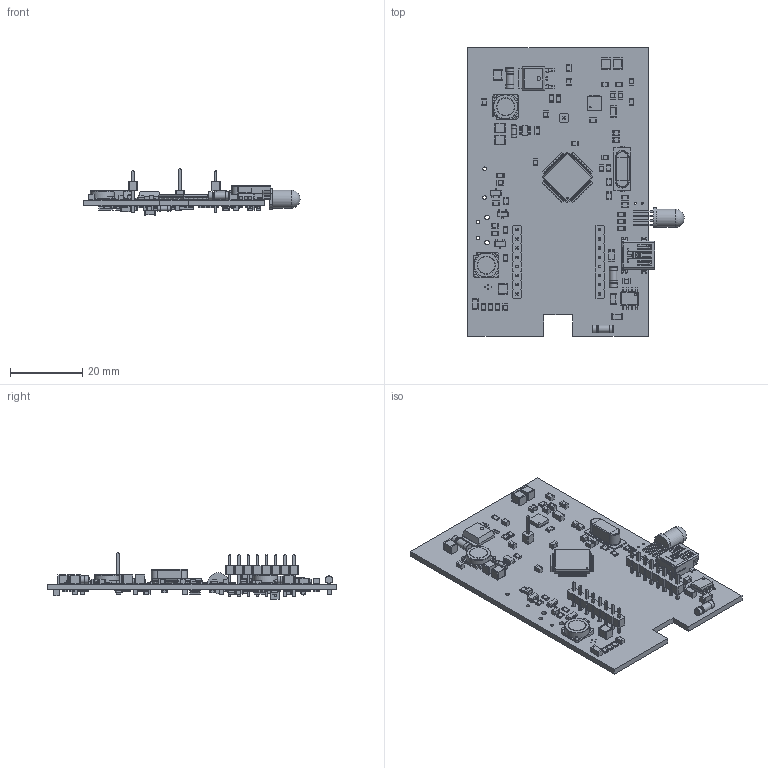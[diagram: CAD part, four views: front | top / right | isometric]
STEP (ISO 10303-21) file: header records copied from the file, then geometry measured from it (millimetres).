
FILE_DESCRIPTION(('KiCad electronic assembly'),'2;1');
FILE_NAME('TinXsat.step','2020-12-25T22:34:20',('An Author'),( 'A Company'),'Open CASCADE STEP processor 6.9', 'KiCad to STEP converter','Unknown');
FILE_SCHEMA(('AUTOMOTIVE_DESIGN { 1 0 10303 214 1 1 1 1 }'));
Length unit declared in the file: millimetre
Products named in the file (48): Open CASCADE STEP translator 6.9 1; R_0805_2012Metric; SOLID; PinHeader_1x08_P2.54mm_Vertical; LED_D5.0mm-4_RGB; C_0805_2012Metric; SOT-23; C_1210_3225Metric; USB_Mini-B_Lumberg_2486_01_Horizontal; C_1206_3216Metric; SOT-23-8; Crystal_SMD_HC49-SD; SOIC-8-1EP_3.9x4.9mm_P1.27mm_EP2.35x2.35mm; L_0805_2012Metric; LQFP-64_10x10mm_P0.5mm; QFN-24-1EP_4x4mm_P0.5mm_EP2.7x2.6mm; QFN-28-1EP_5x5mm_P0.5mm_EP3.35x3.35mm; R_MiniMELF_MMA-0204; TO-252-2; L_TDK_SLF7032; PinHeader_1x01_P2.54mm_Vertical; Fuse_1206_3216Metric; D_MELF; LED_0805_2012Metric; C_0603_1608Metric; COMPOUND
Assembly tree (163 placements, depth 3):
  Open CASCADE STEP translator 6.9 1
    R_0805_2012Metric  x58
      SOLID
    PinHeader_1x08_P2.54mm_Vertical  x2
      SOLID
    LED_D5.0mm-4_RGB
      SOLID
    C_0805_2012Metric  x29
      SOLID
    SOT-23  x8
      SOLID
    C_1210_3225Metric  x7
      SOLID
    USB_Mini-B_Lumberg_2486_01_Horizontal
      SOLID
    C_1206_3216Metric  x5
      SOLID
    SOT-23-8  x2
      SOLID
    Crystal_SMD_HC49-SD
      SOLID
    SOIC-8-1EP_3.9x4.9mm_P1.27mm_EP2.35x2.35mm
      SOLID
    L_0805_2012Metric
      SOLID
    LQFP-64_10x10mm_P0.5mm
      SOLID
    QFN-24-1EP_4x4mm_P0.5mm_EP2.7x2.6mm
      SOLID
    QFN-28-1EP_5x5mm_P0.5mm_EP3.35x3.35mm
      SOLID
    R_MiniMELF_MMA-0204  x2
      SOLID
    TO-252-2
      SOLID
    L_TDK_SLF7032  x2
      SOLID
    PinHeader_1x01_P2.54mm_Vertical
      SOLID
    Fuse_1206_3216Metric  x3
      SOLID
    D_MELF  x3
      SOLID
    LED_0805_2012Metric  x4
      SOLID
    C_0603_1608Metric  x4
      SOLID
    COMPOUND
Bounding box: 59.91 x 80 x 12.74 mm (x, y, z)
Volume: 8030.9 mm3; surface area: 13101.5 mm2
Topology: 140 solids, 140 shells, 6794 faces, 17798 edges, 11427 vertices
Faces by surface type: plane 4546, cylinder 1819, bspline 408, revolution 10, torus 6, sphere 5
Full cylindrical faces by diameter (mm): 0.2 x4, 0.4 x1, 0.5 x4, 0.6 x1, 0.8 x2, 1 x24, 1.3 x2, 1.35 x2, 1.4 x4, 2.1 x6, 2.12 x3, 2.2 x6, 5 x3, 6.6 x2, 6.8 x4
Entity records: 232540 total; most frequent: CARTESIAN_POINT 50221, DIRECTION 30015, LINE 20618, VECTOR 20618, ORIENTED_EDGE 16080, PCURVE 16080, DEFINITIONAL_REPRESENTATION 16080, EDGE_CURVE 8040
